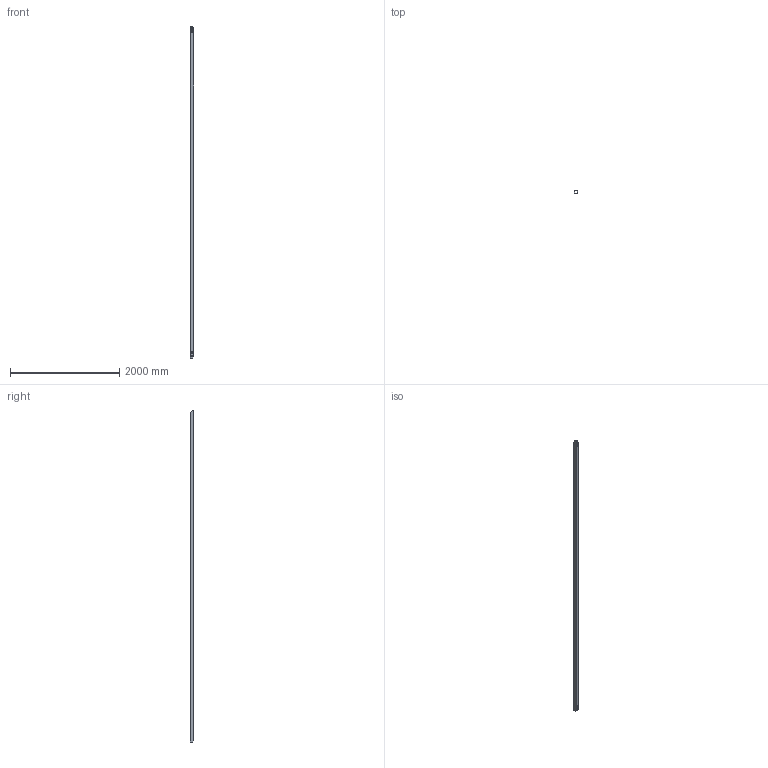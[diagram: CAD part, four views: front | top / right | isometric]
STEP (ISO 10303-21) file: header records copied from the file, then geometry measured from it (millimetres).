
FILE_DESCRIPTION(('Open CASCADE Model'),'2;1');
FILE_NAME('Open CASCADE Shape Model','2026-10-15T15:10:06',('Author'),( 'Open CASCADE'),'Open CASCADE STEP processor 8.0','Open CASCADE 8.0' ,'Unknown');
FILE_SCHEMA(('AUTOMOTIVE_DESIGN { 1 0 10303 214 1 1 1 1 }'));
Length unit declared in the file: millimetre
Products named in the file (1): SHS60x60x4_L6085645_SLOT_P05_JUNTA_2 183
Bounding box: 60 x 60 x 6085.65 mm (x, y, z)
Volume: 5382889.5 mm3; surface area: 2697576.9 mm2
Topology: 1 solids, 1 shells, 36 faces, 108 edges, 72 vertices
Faces by surface type: plane 28, cylinder 8
Entity records: 2548 total; most frequent: CARTESIAN_POINT 613, DIRECTION 288, ORIENTED_EDGE 216, PCURVE 216, DEFINITIONAL_REPRESENTATION 216, LINE 172, VECTOR 172, B_SPLINE_CURVE_WITH_KNOTS 120
